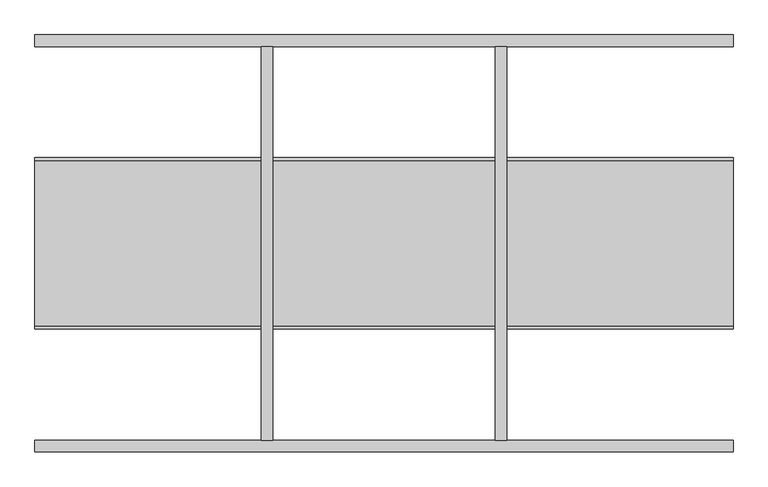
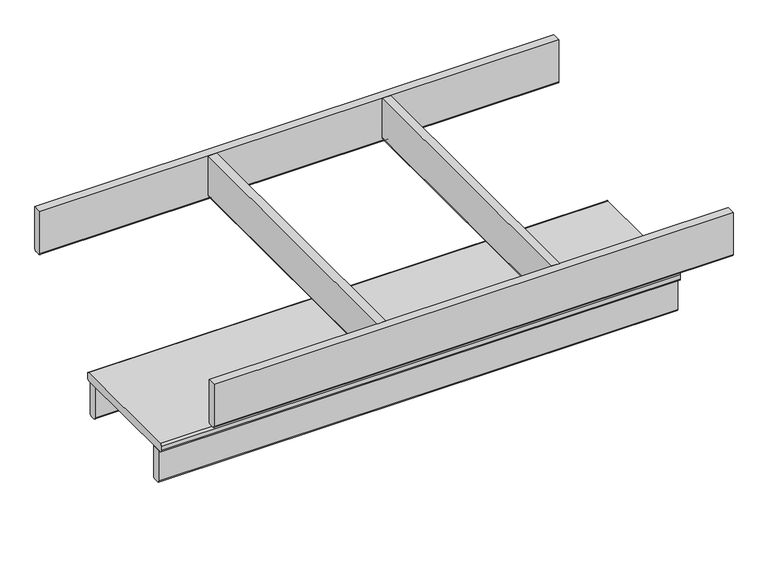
"""IFC4 building model written with IfcOpenShell, lengths in millimetres: furniture geometry, SSL-Childcraft_Outdoor-Table-Rectangle : 2161354."""

from ifc_helpers import new_model, si_unit, point, frame, frame_2d, origin, place, context, project, spatial, polyline, circle_curve, trimmed, segment, composite_curve, outline, extrude, source, transform, mapped, element, save


def furniture_01b70b8d(model_context):
    return source(origin(), model_context, "Body", "SweptSolid", [
        extrude(outline(composite_curve([segment(polyline([(488.95, -180.975), (488.95, -200.025), (398.4625, -200.025)]), True, "CONTINUOUS"), segment(trimmed(circle_curve(frame_2d((398.4625, -195.2625)), 4.7625), [point((398.4625, -200.025))], [point((393.7, -195.2625))], False, "CARTESIAN"), True, "CONTINUOUS"), segment(polyline([(393.7, -195.2625), (393.7, -185.7375)]), True, "CONTINUOUS"), segment(trimmed(circle_curve(frame_2d((398.4625, -185.7375)), 4.7625), [point((393.7, -185.7375))], [point((398.4625, -180.975))], False, "CARTESIAN"), True, "CONTINUOUS"), segment(polyline([(398.4625, -180.975), (488.95, -180.975)]), True, "CONTINUOUS")], self_intersect=False)), frame((0.0, -320.675, 0.0), z_axis=(0.0, 1.0, 0.0), x_axis=(0.0, 0.0, 1.0)), (0.0, 0.0, 1.0), 641.3503295),
        extrude(outline(composite_curve([segment(polyline([(488.95, 200.025), (488.95, 180.975), (398.4625, 180.975)]), True, "CONTINUOUS"), segment(trimmed(circle_curve(frame_2d((398.4625, 185.7375)), 4.7625), [point((398.4625, 180.975))], [point((393.7, 185.7375))], False, "CARTESIAN"), True, "CONTINUOUS"), segment(polyline([(393.7, 185.7375), (393.7, 195.2625)]), True, "CONTINUOUS"), segment(trimmed(circle_curve(frame_2d((398.4625, 195.2625)), 4.7625), [point((393.7, 195.2625))], [point((398.4625, 200.025))], False, "CARTESIAN"), True, "CONTINUOUS"), segment(polyline([(398.4625, 200.025), (488.95, 200.025)]), True, "CONTINUOUS")], self_intersect=False)), frame((0.0, -320.675, 0.0), z_axis=(0.0, 1.0, 0.0), x_axis=(0.0, 0.0, 1.0)), (0.0, 0.0, 1.0), 641.3503295),
        extrude(outline(composite_curve([segment(polyline([(209.55, -180.975), (209.55, -200.025), (144.4625, -200.025)]), True, "CONTINUOUS"), segment(trimmed(circle_curve(frame_2d((144.4625, -195.2625)), 4.7625), [point((144.4625, -200.025))], [point((139.7, -195.2625))], False, "CARTESIAN"), True, "CONTINUOUS"), segment(polyline([(139.7, -195.2625), (139.7, -185.7375)]), True, "CONTINUOUS"), segment(trimmed(circle_curve(frame_2d((144.4625, -185.7375)), 4.7625), [point((139.7, -185.7375))], [point((144.4625, -180.975))], False, "CARTESIAN"), True, "CONTINUOUS"), segment(polyline([(144.4625, -180.975), (209.55, -180.975)]), True, "CONTINUOUS")], self_intersect=False)), frame((0.0, -111.1249176, 0.0), z_axis=(0.0, 1.0, 0.0), x_axis=(0.0, 0.0, 1.0)), (0.0, 0.0, 1.0), 222.25),
        extrude(outline(composite_curve([segment(polyline([(209.55, 200.025), (209.55, 180.975), (144.4625, 180.975)]), True, "CONTINUOUS"), segment(trimmed(circle_curve(frame_2d((144.4625, 185.7375)), 4.7625), [point((144.4625, 180.975))], [point((139.7, 185.7375))], False, "CARTESIAN"), True, "CONTINUOUS"), segment(polyline([(139.7, 185.7375), (139.7, 195.2625)]), True, "CONTINUOUS"), segment(trimmed(circle_curve(frame_2d((144.4625, 195.2625)), 4.7625), [point((139.7, 195.2625))], [point((144.4625, 200.025))], False, "CARTESIAN"), True, "CONTINUOUS"), segment(polyline([(144.4625, 200.025), (209.55, 200.025)]), True, "CONTINUOUS")], self_intersect=False)), frame((0.0, -111.1249176, 0.0), z_axis=(0.0, 1.0, 0.0), x_axis=(0.0, 0.0, 1.0)), (0.0, 0.0, 1.0), 222.25),
        extrude(outline(composite_curve([segment(trimmed(circle_curve(frame_2d((-134.9374176, 214.3125)), 4.7625), [point((-134.9374176, 209.55))], [point((-139.6999176, 214.3125))], False, "CARTESIAN"), True, "CONTINUOUS"), segment(polyline([(-139.6999176, 214.3125), (-139.6999176, 223.8375)]), True, "CONTINUOUS"), segment(trimmed(circle_curve(frame_2d((-134.9374176, 223.8375)), 4.7625), [point((-139.6999176, 223.8375))], [point((-134.9374176, 228.6))], False, "CARTESIAN"), True, "CONTINUOUS"), segment(polyline([(-134.9374176, 228.6), (134.9375824, 228.6)]), True, "CONTINUOUS"), segment(trimmed(circle_curve(frame_2d((134.9375824, 223.8375)), 4.7625), [point((134.9375824, 228.6))], [point((139.7000824, 223.8375))], False, "CARTESIAN"), True, "CONTINUOUS"), segment(polyline([(139.7000824, 223.8375), (139.7000824, 214.3125)]), True, "CONTINUOUS"), segment(trimmed(circle_curve(frame_2d((134.9375824, 214.3125)), 4.7625), [point((139.7000824, 214.3125))], [point((134.9375824, 209.55))], False, "CARTESIAN"), True, "CONTINUOUS"), segment(polyline([(134.9375824, 209.55), (-134.9374176, 209.55)]), True, "CONTINUOUS")], self_intersect=False)), frame((-568.325, 0.0, 0.0), z_axis=(1.0, 0.0, 0.0), x_axis=(0.0, 1.0, 0.0)), (0.0, 0.0, 1.0), 1136.65),
        extrude(outline(composite_curve([segment(polyline([(320.6753295, 488.95), (339.7253295, 488.95), (339.7253295, 392.1252)]), True, "CONTINUOUS"), segment(trimmed(circle_curve(frame_2d((334.9501295, 392.1252)), 4.7752), [point((339.7253295, 392.1252))], [point((334.9501295, 387.35))], False, "CARTESIAN"), True, "CONTINUOUS"), segment(polyline([(334.9501295, 387.35), (325.4378295, 387.35)]), True, "CONTINUOUS"), segment(trimmed(circle_curve(frame_2d((325.4378295, 392.1125)), 4.7625), [point((325.4378295, 387.35))], [point((320.6753295, 392.1125))], False, "CARTESIAN"), True, "CONTINUOUS"), segment(polyline([(320.6753295, 392.1125), (320.6753295, 488.95)]), True, "CONTINUOUS")], self_intersect=False)), frame((-568.325, 0.0, 0.0), z_axis=(1.0, 0.0, 0.0), x_axis=(0.0, 1.0, 0.0)), (0.0, 0.0, 1.0), 1136.65),
        extrude(outline(composite_curve([segment(polyline([(-339.725, 488.95), (-320.675, 488.95), (-320.675, 392.1125)]), True, "CONTINUOUS"), segment(trimmed(circle_curve(frame_2d((-325.4375, 392.1125)), 4.7625), [point((-320.675, 392.1125))], [point((-325.4375, 387.35))], False, "CARTESIAN"), True, "CONTINUOUS"), segment(polyline([(-325.4375, 387.35), (-334.9625, 387.35)]), True, "CONTINUOUS"), segment(trimmed(circle_curve(frame_2d((-334.9625, 392.1125)), 4.7625), [point((-334.9625, 387.35))], [point((-339.725, 392.1125))], False, "CARTESIAN"), True, "CONTINUOUS"), segment(polyline([(-339.725, 392.1125), (-339.725, 488.95)]), True, "CONTINUOUS")], self_intersect=False)), frame((-568.325, 0.0, 0.0), z_axis=(1.0, 0.0, 0.0), x_axis=(0.0, 1.0, 0.0)), (0.0, 0.0, 1.0), 1136.65),
        extrude(outline(composite_curve([segment(polyline([(111.1250824, 209.55), (130.1750824, 209.55), (130.1750824, 138.1125)]), True, "CONTINUOUS"), segment(trimmed(circle_curve(frame_2d((125.4125824, 138.1125)), 4.7625), [point((130.1750824, 138.1125))], [point((125.4125824, 133.35))], False, "CARTESIAN"), True, "CONTINUOUS"), segment(polyline([(125.4125824, 133.35), (115.8875824, 133.35)]), True, "CONTINUOUS"), segment(trimmed(circle_curve(frame_2d((115.8875824, 138.1125)), 4.7625), [point((115.8875824, 133.35))], [point((111.1250824, 138.1125))], False, "CARTESIAN"), True, "CONTINUOUS"), segment(polyline([(111.1250824, 138.1125), (111.1250824, 209.55)]), True, "CONTINUOUS")], self_intersect=False)), frame((-568.325, 0.0, 0.0), z_axis=(1.0, 0.0, 0.0), x_axis=(0.0, 1.0, 0.0)), (0.0, 0.0, 1.0), 1136.65),
        extrude(outline(composite_curve([segment(polyline([(-130.1749176, 209.55), (-111.1249176, 209.55), (-111.1249176, 138.1125)]), True, "CONTINUOUS"), segment(trimmed(circle_curve(frame_2d((-115.8874176, 138.1125)), 4.7625), [point((-111.1249176, 138.1125))], [point((-115.8874176, 133.35))], False, "CARTESIAN"), True, "CONTINUOUS"), segment(polyline([(-115.8874176, 133.35), (-125.4124176, 133.35)]), True, "CONTINUOUS"), segment(trimmed(circle_curve(frame_2d((-125.4124176, 138.1125)), 4.7625), [point((-125.4124176, 133.35))], [point((-130.1749176, 138.1125))], False, "CARTESIAN"), True, "CONTINUOUS"), segment(polyline([(-130.1749176, 138.1125), (-130.1749176, 209.55)]), True, "CONTINUOUS")], self_intersect=False)), frame((-568.325, 0.0, 0.0), z_axis=(1.0, 0.0, 0.0), x_axis=(0.0, 1.0, 0.0)), (0.0, 0.0, 1.0), 1136.65),
    ])


if __name__ == "__main__":
    model = new_model("IFC4")
    model_context = context("Model", 3, world=origin())
    ifc_project = project(units=[si_unit("LENGTHUNIT", "METRE", prefix="MILLI")], contexts=[model_context])
    site = spatial("IfcSite", under=ifc_project)
    building = spatial("IfcBuilding", under=site)
    placement = place(None, origin())
    furniture_shape = furniture_01b70b8d(model_context)
    element("IfcFurniture", 1, ObjectType="SSL-Childcraft_Outdoor-Table-Rectangle : 2161354", at=placement, inside=building, context=model_context, shape_type="MappedRepresentation", body=[
        mapped(furniture_shape, transform((0.0, 0.0, 0.0), x_axis=(1.0, 0.0, 0.0), y_axis=(0.0, 1.0, 0.0), z_axis=(0.0, 0.0, 1.0))),
    ])
    save(model, "model.ifc")
